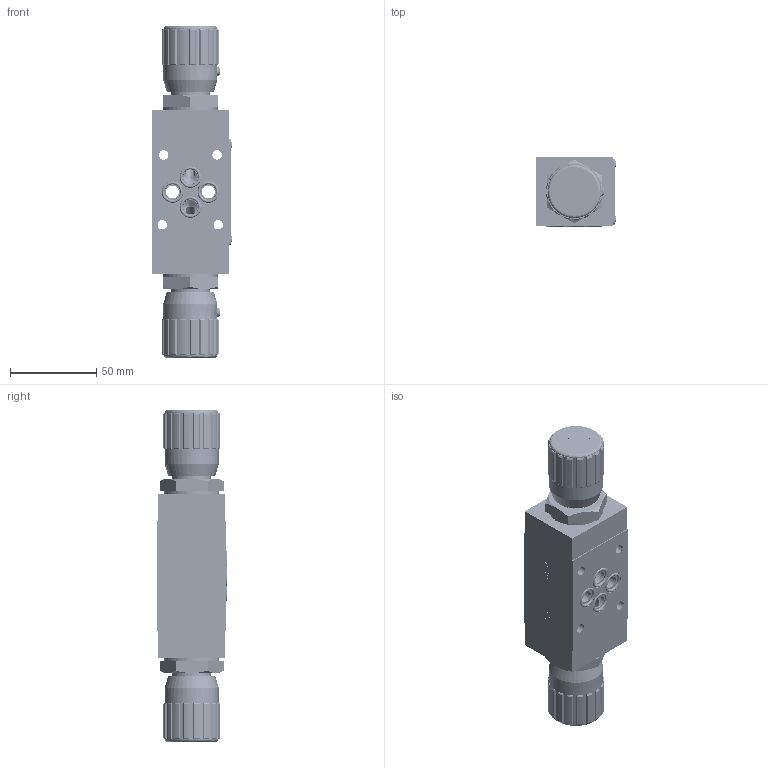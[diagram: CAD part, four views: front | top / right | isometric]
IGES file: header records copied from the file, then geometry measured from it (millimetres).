
Start section: SolidWorks IGES file using analytic representation for surfaces
Global section: file name: C:\Users\user\Desktop\FT357-5-AB-03.IGS; native system: SolidWorks 2014; preprocessor: SolidWorks 2014; author: user; date: 140617.071308; units: millimetre
Bounding box: 46.96 x 40.38 x 192.6 mm (x, y, z)
Surface area: 95386.9 mm2 (no closed solid volume)
Topology: 0 solids, 0 shells, 3010 faces, 34391 edges, 34367 vertices
Faces by surface type: bspline 2108, revolution 902
